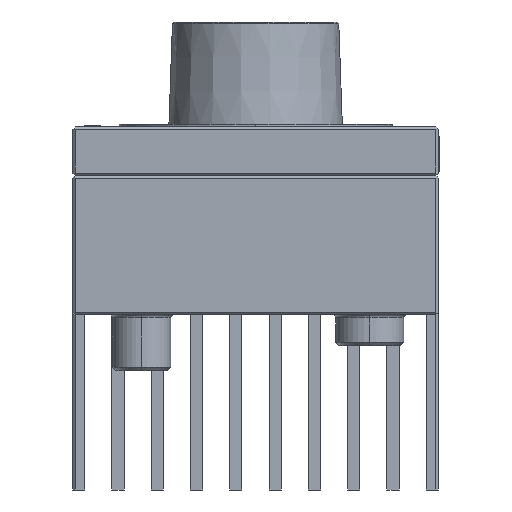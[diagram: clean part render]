
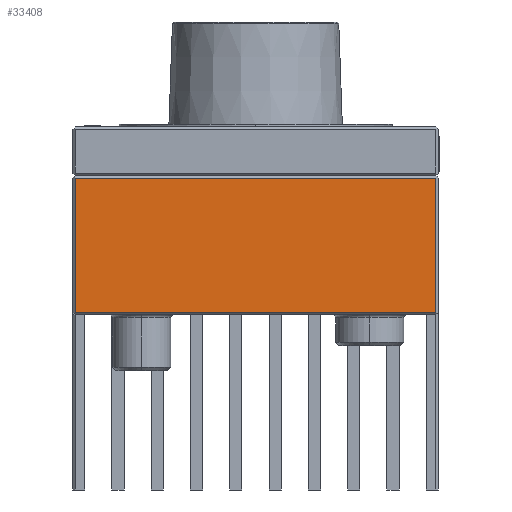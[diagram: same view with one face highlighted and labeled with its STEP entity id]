
A CAD part, left-side view. The second image highlights one B-rep face of the part: STEP entity #33408.
In plain terms, the highlighted planar face has unit normal (-1, 0, 0).
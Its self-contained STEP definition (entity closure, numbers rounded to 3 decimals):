
#9430=DIRECTION('',(0.,-1.,0.));
#9431=VECTOR('',#9430,74.);
#9432=CARTESIAN_POINT('',(-35.,37.,-14.));
#9433=LINE('',#9432,#9431);
#9437=DIRECTION('',(0.,0.,-1.));
#9438=VECTOR('',#9437,27.5);
#9439=CARTESIAN_POINT('',(-35.,-37.,-14.));
#9440=LINE('',#9439,#9438);
#9444=DIRECTION('',(0.,1.,0.));
#9445=VECTOR('',#9444,74.);
#9446=CARTESIAN_POINT('',(-35.,-37.,-41.5));
#9447=LINE('',#9446,#9445);
#9451=DIRECTION('',(0.,0.,-1.));
#9452=VECTOR('',#9451,27.5);
#9453=CARTESIAN_POINT('',(-35.,37.,-14.));
#9454=LINE('',#9453,#9452);
#24713=CARTESIAN_POINT('',(-35.,-37.,-41.5));
#24714=CARTESIAN_POINT('',(-35.,37.,-41.5));
#24715=VERTEX_POINT('',#24713);
#24716=VERTEX_POINT('',#24714);
#24965=CARTESIAN_POINT('',(-35.,37.,-14.));
#24966=CARTESIAN_POINT('',(-35.,-37.,-14.));
#24967=VERTEX_POINT('',#24965);
#24968=VERTEX_POINT('',#24966);
#33395=CARTESIAN_POINT('',(-35.,37.5,-3.5));
#33396=DIRECTION('',(-1.,0.,0.));
#33397=DIRECTION('',(0.,-1.,0.));
#33398=AXIS2_PLACEMENT_3D('',#33395,#33396,#33397);
#33399=PLANE('',#33398);
#33401=ORIENTED_EDGE('',*,*,#33400,.T.);
#33402=ORIENTED_EDGE('',*,*,#33351,.T.);
#33403=ORIENTED_EDGE('',*,*,#32239,.T.);
#33405=ORIENTED_EDGE('',*,*,#33404,.F.);
#33406=EDGE_LOOP('',(#33401,#33402,#33403,#33405));
#33407=FACE_OUTER_BOUND('',#33406,.F.);
#32239=EDGE_CURVE('',#24715,#24716,#9447,.T.);
#33351=EDGE_CURVE('',#24968,#24715,#9440,.T.);
#33400=EDGE_CURVE('',#24967,#24968,#9433,.T.);
#33404=EDGE_CURVE('',#24967,#24716,#9454,.T.);
#33408=ADVANCED_FACE('',(#33407),#33399,.T.);
